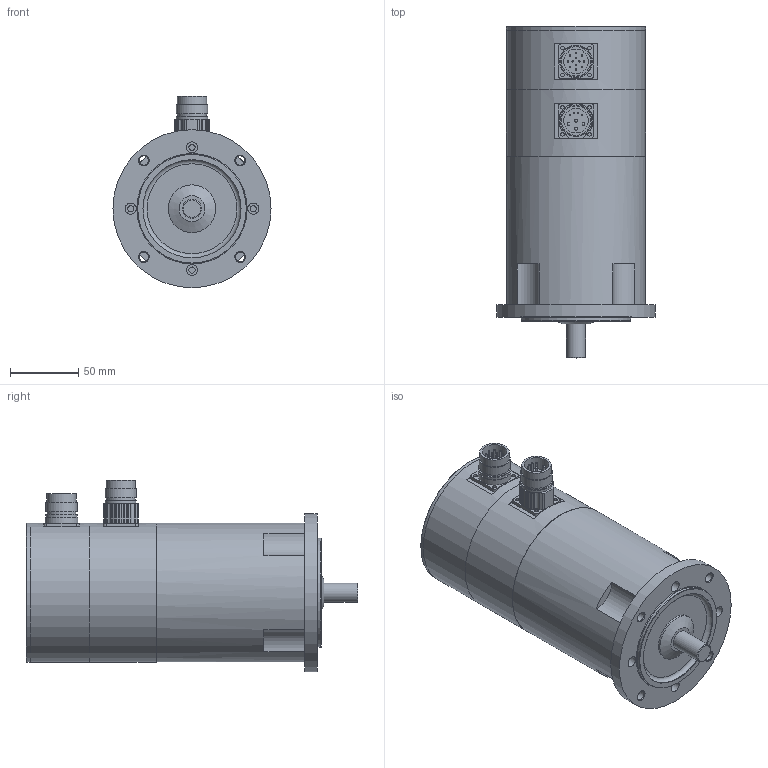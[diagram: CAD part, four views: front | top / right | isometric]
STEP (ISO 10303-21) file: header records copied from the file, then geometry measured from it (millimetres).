
FILE_DESCRIPTION(/* description */ (''),/* implementation_level */ '2;1');
FILE_NAME(/* name */ 'ksy_368e_md_r4',/* time_stamp */ '2007-03-20T06:44:05+01:00',/* author */ (''),/* organization */ (''),/* preprocessor_version */ 'ST-DEVELOPER v8',/* originating_system */ 'UNIGRAPHICS SOLUTIONS - UNIGRAPHICS 18.0',/* authorisation */ '');
FILE_SCHEMA (('AUTOMOTIVE_DESIGN { 1 2 10303 214 0 1 1 1 }'));
Length unit declared in the file: millimetre
Products named in the file (11): 014261_0; 014260_0; 064265_0; 064318_0; 113062_0; 06330201_0; DIN3760_org_A15x30x7_0; Rotor_SY 36.. E_0; Gehaeuse_SY 36.. E_0; 113050_0; KSY364_E-MD-R4_0
Assembly tree (10 placements, depth 2):
  KSY364_E-MD-R4_0
    113050_0
    Gehaeuse_SY 36.. E_0
    Rotor_SY 36.. E_0
    DIN3760_org_A15x30x7_0
    06330201_0
    113062_0
    064318_0
    064265_0
    014260_0
    014261_0
Bounding box: 116 x 243.5 x 140.5 mm (x, y, z)
Volume: 1399228 mm3; surface area: 202930.6 mm2
Topology: 10 solids, 10 shells, 291 faces, 710 edges, 454 vertices
Faces by surface type: cylinder 158, plane 81, cone 23, sphere 20, torus 9
Full cylindrical faces by diameter (mm): 1 x16, 2 x4, 2.7 x8, 3.5 x4, 4.5 x4, 6 x4, 7 x4, 8 x4, 13.52 x1, 13.92 x1, 14 x1, 15 x2, 15.3 x1, 18 x2, 20 x4, 21 x2, 21.5 x2, 23 x4, 24 x1, 27 x1, 29 x1, 30 x3, 35 x2, 42 x1, 72 x1, 74 x1, 79.3 x2, 80 x2, 81 x4, 102 x4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
Entity records: 7603 total; most frequent: DIRECTION 1440, CARTESIAN_POINT 1161, ORIENTED_EDGE 946, AXIS2_PLACEMENT_3D 665, EDGE_LOOP 518, EDGE_CURVE 473, VERTEX_POINT 386, CIRCLE 363
